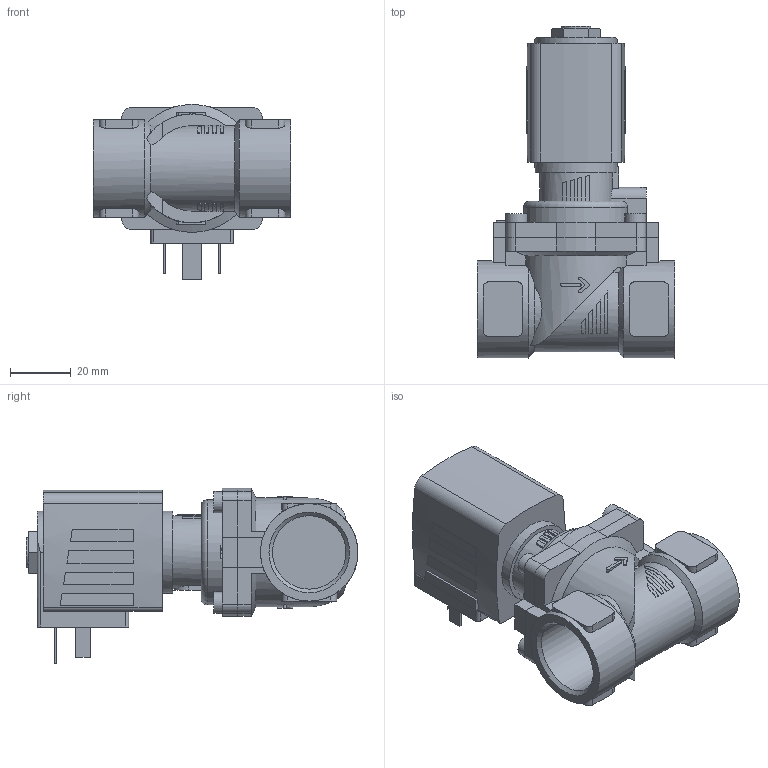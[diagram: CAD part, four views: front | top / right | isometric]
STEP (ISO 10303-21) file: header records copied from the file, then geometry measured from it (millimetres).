
FILE_DESCRIPTION(/* description */ ('STEP AP214'),/* implementation_level */ '2;1');
FILE_NAME(/* name */ '6281-361627-2_2-Way_Solenoid_Valve__Servo-assisted__General_Purpose',/* time_stamp */ '2024-05-26T21:22:54+02:00',/* author */ ('License CC BY-ND 4.0'),/* organization */ ('CADENAS'),/* preprocessor_version */ 'ST-DEVELOPER v19.3',/* originating_system */ 'PARTsolutions',/* authorisation */ ' ');
FILE_SCHEMA (('AUTOMOTIVE_DESIGN {1 0 10303 214 3 1 1}'));
Length unit declared in the file: millimetre
Products named in the file (4): 6281-361627-2/2-Way Solenoid Valve, Servo-assisted, General Purpose; 5281ev130MS2/2-Wege-Magnetventil mit Servomembran-Deckel 42 ; 6213-13G3/4MS-Gehaeuse-; AC10ex-5NA38-Plan-Coil
Assembly tree (3 placements, depth 2):
  6281-361627-2/2-Way Solenoid Valve, Servo-assisted, General Purpose
    5281ev130MS2/2-Wege-Magnetventil mit Servomembran-Deckel 42 
    6213-13G3/4MS-Gehaeuse-
    AC10ex-5NA38-Plan-Coil
Bounding box: 65 x 109 x 57.5 mm (x, y, z)
Volume: 124045.4 mm3; surface area: 31503.8 mm2
Topology: 3 solids, 3 shells, 343 faces, 877 edges, 574 vertices
Faces by surface type: plane 238, cylinder 91, cone 13, torus 1
Full cylindrical faces by diameter (mm): 2.013 x1, 7 x4, 9.74 x1, 24.117 x2, 27 x1, 32 x2
Entity records: 11697 total; most frequent: CARTESIAN_POINT 2053, DIRECTION 1736, ORIENTED_EDGE 1712, EDGE_CURVE 856, AXIS2_PLACEMENT_3D 606, VERTEX_POINT 568, LINE 524, VECTOR 524
